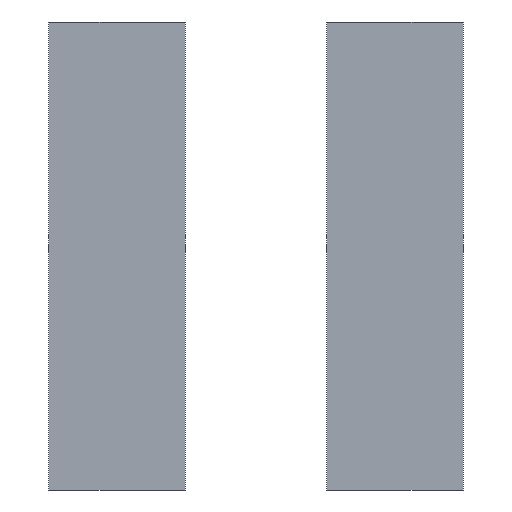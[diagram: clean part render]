
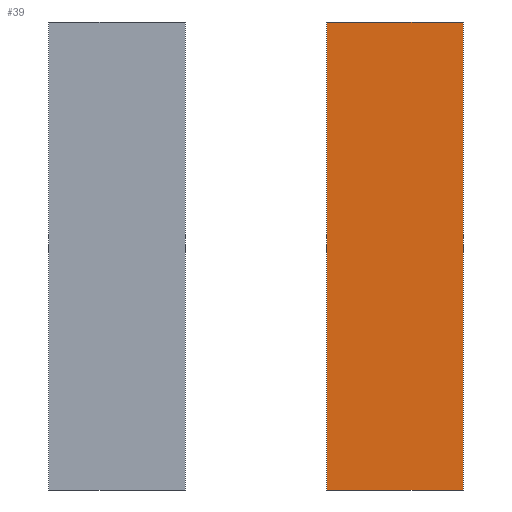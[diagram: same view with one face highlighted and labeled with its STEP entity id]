
A CAD part, left-side view. The second image highlights one B-rep face of the part: STEP entity #39.
In plain terms, the highlighted planar face has unit normal (-1, 0, 0).
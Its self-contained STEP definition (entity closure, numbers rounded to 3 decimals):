
#39 = ADVANCED_FACE('',(#40),#54,.F.);
#40 = FACE_BOUND('',#41,.F.);
#41 = EDGE_LOOP('',(#42,#77,#105,#133));
#42 = ORIENTED_EDGE('',*,*,#43,.F.);
#43 = EDGE_CURVE('',#44,#46,#48,.T.);
#44 = VERTEX_POINT('',#45);
#45 = CARTESIAN_POINT('',(-1.,-48.,-165.));
#46 = VERTEX_POINT('',#47);
#47 = CARTESIAN_POINT('',(-1.,-48.,165.));
#48 = SURFACE_CURVE('',#49,(#53,#65),.PCURVE_S1.);
#49 = LINE('',#50,#51);
#50 = CARTESIAN_POINT('',(-1.,-48.,-165.));
#51 = VECTOR('',#52,1.);
#52 = DIRECTION('',(0.,0.,1.));
#53 = PCURVE('',#54,#59);
#54 = PLANE('',#55);
#55 = AXIS2_PLACEMENT_3D('',#56,#57,#58);
#56 = CARTESIAN_POINT('',(-1.,-48.,-165.));
#57 = DIRECTION('',(1.,0.,-0.));
#58 = DIRECTION('',(0.,0.,1.));
#59 = DEFINITIONAL_REPRESENTATION('',(#60),#64);
#60 = LINE('',#61,#62);
#61 = CARTESIAN_POINT('',(0.,0.));
#62 = VECTOR('',#63,1.);
#63 = DIRECTION('',(1.,0.));
#64 = ( GEOMETRIC_REPRESENTATION_CONTEXT(2) 
PARAMETRIC_REPRESENTATION_CONTEXT() REPRESENTATION_CONTEXT('2D SPACE',''
  ) );
#65 = PCURVE('',#66,#71);
#66 = PLANE('',#67);
#67 = AXIS2_PLACEMENT_3D('',#68,#69,#70);
#68 = CARTESIAN_POINT('',(-1.,-48.,-165.));
#69 = DIRECTION('',(-0.,1.,0.));
#70 = DIRECTION('',(0.,0.,1.));
#71 = DEFINITIONAL_REPRESENTATION('',(#72),#76);
#72 = LINE('',#73,#74);
#73 = CARTESIAN_POINT('',(0.,0.));
#74 = VECTOR('',#75,1.);
#75 = DIRECTION('',(1.,0.));
#76 = ( GEOMETRIC_REPRESENTATION_CONTEXT(2) 
PARAMETRIC_REPRESENTATION_CONTEXT() REPRESENTATION_CONTEXT('2D SPACE',''
  ) );
#77 = ORIENTED_EDGE('',*,*,#78,.T.);
#78 = EDGE_CURVE('',#44,#79,#81,.T.);
#79 = VERTEX_POINT('',#80);
#80 = CARTESIAN_POINT('',(-1.,48.,-165.));
#81 = SURFACE_CURVE('',#82,(#86,#93),.PCURVE_S1.);
#82 = LINE('',#83,#84);
#83 = CARTESIAN_POINT('',(-1.,-48.,-165.));
#84 = VECTOR('',#85,1.);
#85 = DIRECTION('',(-0.,1.,0.));
#86 = PCURVE('',#54,#87);
#87 = DEFINITIONAL_REPRESENTATION('',(#88),#92);
#88 = LINE('',#89,#90);
#89 = CARTESIAN_POINT('',(0.,0.));
#90 = VECTOR('',#91,1.);
#91 = DIRECTION('',(0.,-1.));
#92 = ( GEOMETRIC_REPRESENTATION_CONTEXT(2) 
PARAMETRIC_REPRESENTATION_CONTEXT() REPRESENTATION_CONTEXT('2D SPACE',''
  ) );
#93 = PCURVE('',#94,#99);
#94 = PLANE('',#95);
#95 = AXIS2_PLACEMENT_3D('',#96,#97,#98);
#96 = CARTESIAN_POINT('',(-1.,-48.,-165.));
#97 = DIRECTION('',(0.,0.,1.));
#98 = DIRECTION('',(1.,0.,-0.));
#99 = DEFINITIONAL_REPRESENTATION('',(#100),#104);
#100 = LINE('',#101,#102);
#101 = CARTESIAN_POINT('',(0.,0.));
#102 = VECTOR('',#103,1.);
#103 = DIRECTION('',(0.,1.));
#104 = ( GEOMETRIC_REPRESENTATION_CONTEXT(2) 
PARAMETRIC_REPRESENTATION_CONTEXT() REPRESENTATION_CONTEXT('2D SPACE',''
  ) );
#105 = ORIENTED_EDGE('',*,*,#106,.T.);
#106 = EDGE_CURVE('',#79,#107,#109,.T.);
#107 = VERTEX_POINT('',#108);
#108 = CARTESIAN_POINT('',(-1.,48.,165.));
#109 = SURFACE_CURVE('',#110,(#114,#121),.PCURVE_S1.);
#110 = LINE('',#111,#112);
#111 = CARTESIAN_POINT('',(-1.,48.,-165.));
#112 = VECTOR('',#113,1.);
#113 = DIRECTION('',(0.,0.,1.));
#114 = PCURVE('',#54,#115);
#115 = DEFINITIONAL_REPRESENTATION('',(#116),#120);
#116 = LINE('',#117,#118);
#117 = CARTESIAN_POINT('',(0.,-96.));
#118 = VECTOR('',#119,1.);
#119 = DIRECTION('',(1.,0.));
#120 = ( GEOMETRIC_REPRESENTATION_CONTEXT(2) 
PARAMETRIC_REPRESENTATION_CONTEXT() REPRESENTATION_CONTEXT('2D SPACE',''
  ) );
#121 = PCURVE('',#122,#127);
#122 = PLANE('',#123);
#123 = AXIS2_PLACEMENT_3D('',#124,#125,#126);
#124 = CARTESIAN_POINT('',(-1.,48.,-165.));
#125 = DIRECTION('',(-0.,1.,0.));
#126 = DIRECTION('',(0.,0.,1.));
#127 = DEFINITIONAL_REPRESENTATION('',(#128),#132);
#128 = LINE('',#129,#130);
#129 = CARTESIAN_POINT('',(0.,0.));
#130 = VECTOR('',#131,1.);
#131 = DIRECTION('',(1.,0.));
#132 = ( GEOMETRIC_REPRESENTATION_CONTEXT(2) 
PARAMETRIC_REPRESENTATION_CONTEXT() REPRESENTATION_CONTEXT('2D SPACE',''
  ) );
#133 = ORIENTED_EDGE('',*,*,#134,.F.);
#134 = EDGE_CURVE('',#46,#107,#135,.T.);
#135 = SURFACE_CURVE('',#136,(#140,#147),.PCURVE_S1.);
#136 = LINE('',#137,#138);
#137 = CARTESIAN_POINT('',(-1.,-48.,165.));
#138 = VECTOR('',#139,1.);
#139 = DIRECTION('',(-0.,1.,0.));
#140 = PCURVE('',#54,#141);
#141 = DEFINITIONAL_REPRESENTATION('',(#142),#146);
#142 = LINE('',#143,#144);
#143 = CARTESIAN_POINT('',(330.,0.));
#144 = VECTOR('',#145,1.);
#145 = DIRECTION('',(0.,-1.));
#146 = ( GEOMETRIC_REPRESENTATION_CONTEXT(2) 
PARAMETRIC_REPRESENTATION_CONTEXT() REPRESENTATION_CONTEXT('2D SPACE',''
  ) );
#147 = PCURVE('',#148,#153);
#148 = PLANE('',#149);
#149 = AXIS2_PLACEMENT_3D('',#150,#151,#152);
#150 = CARTESIAN_POINT('',(-1.,-48.,165.));
#151 = DIRECTION('',(0.,0.,1.));
#152 = DIRECTION('',(1.,0.,-0.));
#153 = DEFINITIONAL_REPRESENTATION('',(#154),#158);
#154 = LINE('',#155,#156);
#155 = CARTESIAN_POINT('',(0.,0.));
#156 = VECTOR('',#157,1.);
#157 = DIRECTION('',(0.,1.));
#158 = ( GEOMETRIC_REPRESENTATION_CONTEXT(2) 
PARAMETRIC_REPRESENTATION_CONTEXT() REPRESENTATION_CONTEXT('2D SPACE',''
  ) );
